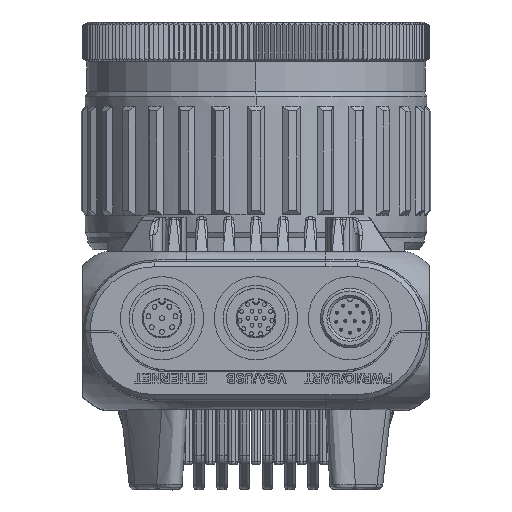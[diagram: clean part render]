
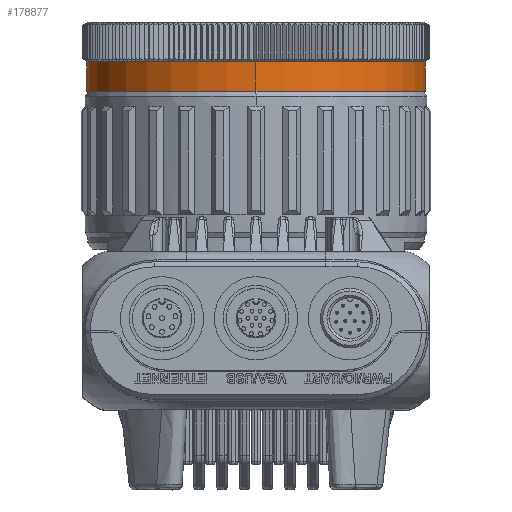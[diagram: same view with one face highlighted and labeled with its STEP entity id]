
A CAD part, top view. The second image highlights one B-rep face of the part: STEP entity #178877.
In plain terms, the highlighted cylindrical face has radius 34.2 mm (diameter 68.4 mm), a partial arc.
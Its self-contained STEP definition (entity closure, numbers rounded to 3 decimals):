
#178733=CARTESIAN_POINT('',(0.,0.,0.));
#178734=DIRECTION('',(0.,1.,0.));
#178735=DIRECTION('',(-1.,0.,0.));
#178736=AXIS2_PLACEMENT_3D('',#178733,#178734,#178735);
#178761=CARTESIAN_POINT('',(0.,6.,0.));
#178762=DIRECTION('',(0.,1.,0.));
#178763=DIRECTION('',(-1.,0.,0.));
#178764=AXIS2_PLACEMENT_3D('',#178761,#178762,#178763);
#178766=DIRECTION('',(0.,1.,0.));
#178767=VECTOR('',#178766,6.);
#178768=CARTESIAN_POINT('',(34.2,0.,0.));
#178769=LINE('',#178768,#178767);
#178770=DIRECTION('',(0.,1.,0.));
#178771=VECTOR('',#178770,6.);
#178772=CARTESIAN_POINT('',(-34.2,0.,0.));
#178773=LINE('',#178772,#178771);
#178778=CARTESIAN_POINT('',(34.2,0.,0.));
#178779=CARTESIAN_POINT('',(-34.2,0.,0.));
#178780=VERTEX_POINT('',#178778);
#178781=VERTEX_POINT('',#178779);
#178786=CARTESIAN_POINT('',(34.2,6.,0.));
#178787=CARTESIAN_POINT('',(-34.2,6.,0.));
#178788=VERTEX_POINT('',#178786);
#178789=VERTEX_POINT('',#178787);
#178866=CARTESIAN_POINT('',(0.,0.,0.));
#178867=DIRECTION('',(0.,1.,0.));
#178868=DIRECTION('',(1.,0.,0.));
#178869=AXIS2_PLACEMENT_3D('',#178866,#178867,#178868);
#178870=CYLINDRICAL_SURFACE('',#178869,34.2);
#178871=ORIENTED_EDGE('',*,*,#178797,.F.);
#178872=ORIENTED_EDGE('',*,*,#178861,.T.);
#178873=ORIENTED_EDGE('',*,*,#178843,.T.);
#178874=ORIENTED_EDGE('',*,*,#178858,.F.);
#178875=EDGE_LOOP('',(#178871,#178872,#178873,#178874));
#178876=FACE_OUTER_BOUND('',#178875,.F.);
#178877=ADVANCED_FACE('',(#178876),#178870,.T.);
#178737=CIRCLE('',#178736,34.2);
#178765=CIRCLE('',#178764,34.2);
#178797=EDGE_CURVE('',#178781,#178780,#178737,.T.);
#178843=EDGE_CURVE('',#178789,#178788,#178765,.T.);
#178858=EDGE_CURVE('',#178780,#178788,#178769,.T.);
#178861=EDGE_CURVE('',#178781,#178789,#178773,.T.);
